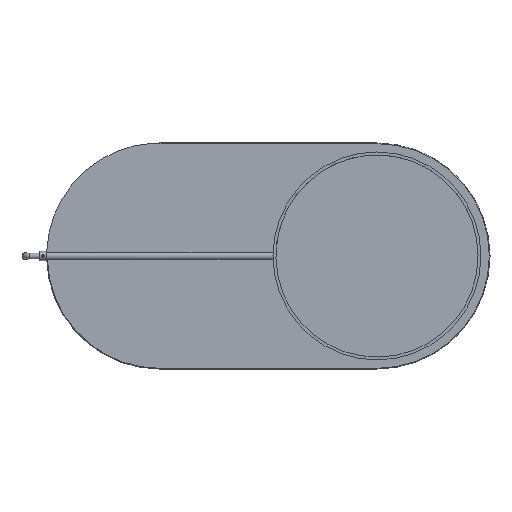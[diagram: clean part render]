
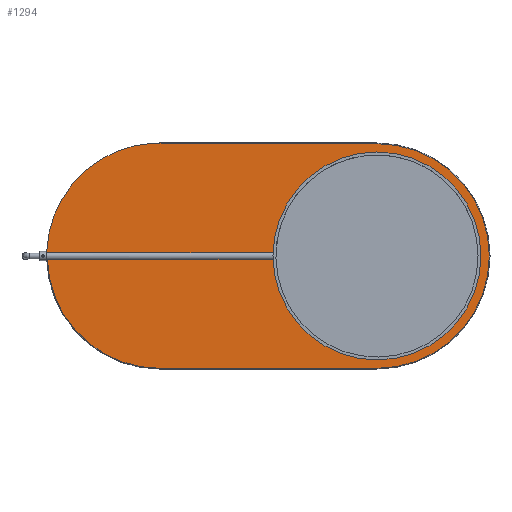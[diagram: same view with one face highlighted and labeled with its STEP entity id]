
A CAD part, top view. The second image highlights one B-rep face of the part: STEP entity #1294.
In plain terms, the highlighted planar face has unit normal (0, 0, 1).
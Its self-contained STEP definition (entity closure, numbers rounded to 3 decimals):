
#411=CARTESIAN_POINT('',(0.0,-310.,5.0));
#412=VERTEX_POINT('',#411);
#420=CARTESIAN_POINT('',(-600.,-310.,5.0));
#421=VERTEX_POINT('',#420);
#422=CARTESIAN_POINT('',(0.0,-310.,5.0));
#423=DIRECTION('',(-1.0,0.0,0.0));
#424=VECTOR('',#423,600.);
#425=LINE('',#422,#424);
#426=EDGE_CURVE('',#412,#421,#425,.T.);
#452=CARTESIAN_POINT('',(0.,310.,5.0));
#453=VERTEX_POINT('',#452);
#461=CARTESIAN_POINT('',(0.0,0.0,5.0));
#462=DIRECTION('',(0.0,0.0,-1.0));
#463=DIRECTION('',(1.0,0.0,0.0));
#464=AXIS2_PLACEMENT_3D('',#461,#462,#463);
#465=CIRCLE('',#464,310.);
#466=EDGE_CURVE('',#453,#412,#465,.T.);
#478=CARTESIAN_POINT('',(-909.757,-9.233,5.0));
#479=VERTEX_POINT('',#478);
#480=CARTESIAN_POINT('',(-599.892,0.002,5.0));
#481=DIRECTION('',(0.0,0.0,-1.));
#482=DIRECTION('',(-0.697,-0.717,0.0));
#483=AXIS2_PLACEMENT_3D('',#480,#481,#482);
#484=CIRCLE('',#483,310.002);
#485=EDGE_CURVE('',#421,#479,#484,.T.);
#512=CARTESIAN_POINT('',(-564.588,310.,5.0));
#513=VERTEX_POINT('',#512);
#551=CARTESIAN_POINT('',(-564.588,310.,5.0));
#552=DIRECTION('',(1.0,0.0,0.0));
#553=VECTOR('',#552,564.588);
#554=LINE('',#551,#553);
#555=EDGE_CURVE('',#513,#453,#554,.T.);
#1216=CARTESIAN_POINT('',(-280.848,-9.233,5.0));
#1217=VERTEX_POINT('',#1216);
#1218=CARTESIAN_POINT('',(-280.848,-9.233,5.0));
#1219=DIRECTION('',(-1.0,0.0,0.0));
#1220=VECTOR('',#1219,628.908);
#1221=LINE('',#1218,#1220);
#1222=EDGE_CURVE('',#1217,#479,#1221,.T.);
#1224=CARTESIAN_POINT('',(-280.848,9.233,5.0));
#1225=VERTEX_POINT('',#1224);
#1243=CARTESIAN_POINT('',(-911.758,9.233,5.0));
#1244=VERTEX_POINT('',#1243);
#1245=CARTESIAN_POINT('',(-911.758,9.233,5.0));
#1246=DIRECTION('',(1.0,0.0,0.0));
#1247=VECTOR('',#1246,630.909);
#1248=LINE('',#1245,#1247);
#1249=EDGE_CURVE('',#1244,#1225,#1248,.T.);
#1267=CARTESIAN_POINT('',(-299.926,-0.016,5.0));
#1268=DIRECTION('',(0.0,0.0,1.0));
#1269=DIRECTION('',(1.0,0.0,0.0));
#1270=AXIS2_PLACEMENT_3D('',#1267,#1268,#1269);
#1271=PLANE('',#1270);
#1272=CARTESIAN_POINT('',(-599.892,0.002,5.0));
#1273=DIRECTION('',(0.0,0.0,-1.));
#1274=DIRECTION('',(-0.005,-1.,0.0));
#1275=AXIS2_PLACEMENT_3D('',#1272,#1273,#1274);
#1276=CIRCLE('',#1275,312.002);
#1277=EDGE_CURVE('',#1244,#513,#1276,.T.);
#1278=ORIENTED_EDGE('',*,*,#1277,.F.);
#1279=ORIENTED_EDGE('',*,*,#1249,.T.);
#1280=CARTESIAN_POINT('',(0.0,0.0,5.0));
#1281=DIRECTION('',(0.0,0.0,1.0));
#1282=DIRECTION('',(-1.0,0.0,0.0));
#1283=AXIS2_PLACEMENT_3D('',#1280,#1281,#1282);
#1284=CIRCLE('',#1283,281.0);
#1285=EDGE_CURVE('',#1217,#1225,#1284,.T.);
#1286=ORIENTED_EDGE('',*,*,#1285,.F.);
#1287=ORIENTED_EDGE('',*,*,#1222,.T.);
#1288=ORIENTED_EDGE('',*,*,#485,.F.);
#1289=ORIENTED_EDGE('',*,*,#426,.F.);
#1290=ORIENTED_EDGE('',*,*,#466,.F.);
#1291=ORIENTED_EDGE('',*,*,#555,.F.);
#1292=EDGE_LOOP('',(#1278,#1279,#1286,#1287,#1288,#1289,#1290,#1291));
#1293=FACE_OUTER_BOUND('',#1292,.T.);
#1294=ADVANCED_FACE('',(#1293),#1271,.T.);
